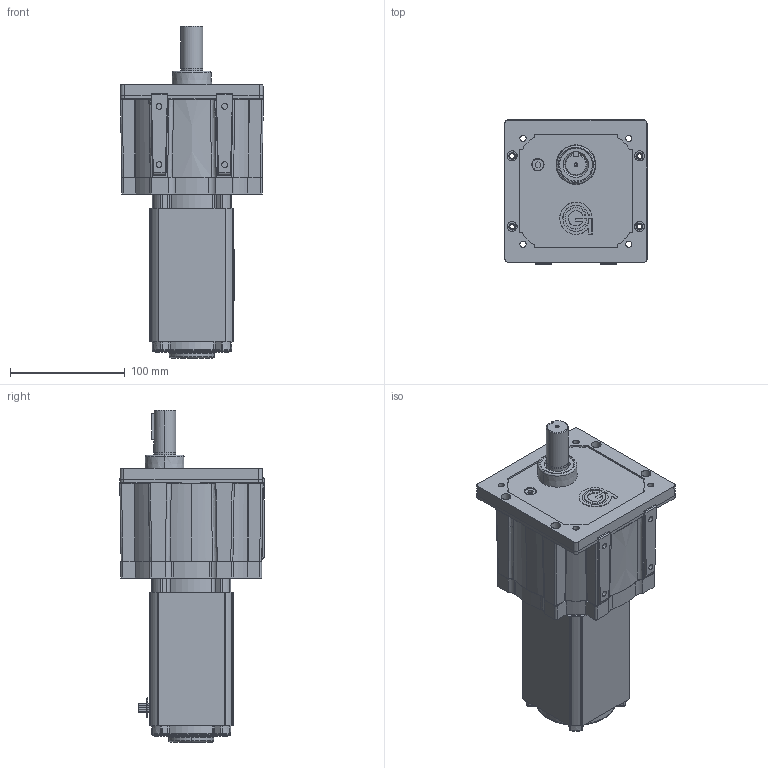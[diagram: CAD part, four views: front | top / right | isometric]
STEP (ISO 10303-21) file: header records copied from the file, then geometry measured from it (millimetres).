
FILE_DESCRIPTION (( 'STEP AP214' ), '1' );
FILE_NAME ('BL6520-PS2300.STEP', '2016-05-04T15:21:06', ( '' ), ( '' ), 'SwSTEP 2.0', 'SolidWorks 2015', '' );
FILE_SCHEMA (( 'AUTOMOTIVE_DESIGN' ));
Length unit declared in the file: millimetre
Products named in the file (1): BL6520-PS2300
Bounding box: 124.56 x 125.69 x 288.87 mm (x, y, z)
Surface area: 175458.4 mm2 (no closed solid volume)
Topology: 0 solids, 47 shells, 855 faces, 2959 edges, 2102 vertices
Faces by surface type: cylinder 324, plane 235, cone 127, torus 98, bspline 57, sphere 14
Entity records: 46865 total; most frequent: CARTESIAN_POINT 12816, DIRECTION 5065, ORIENTED_EDGE 4862, EDGE_CURVE 2955, VERTEX_POINT 2102, AXIS2_PLACEMENT_3D 1929, LINE 1207, VECTOR 1207
